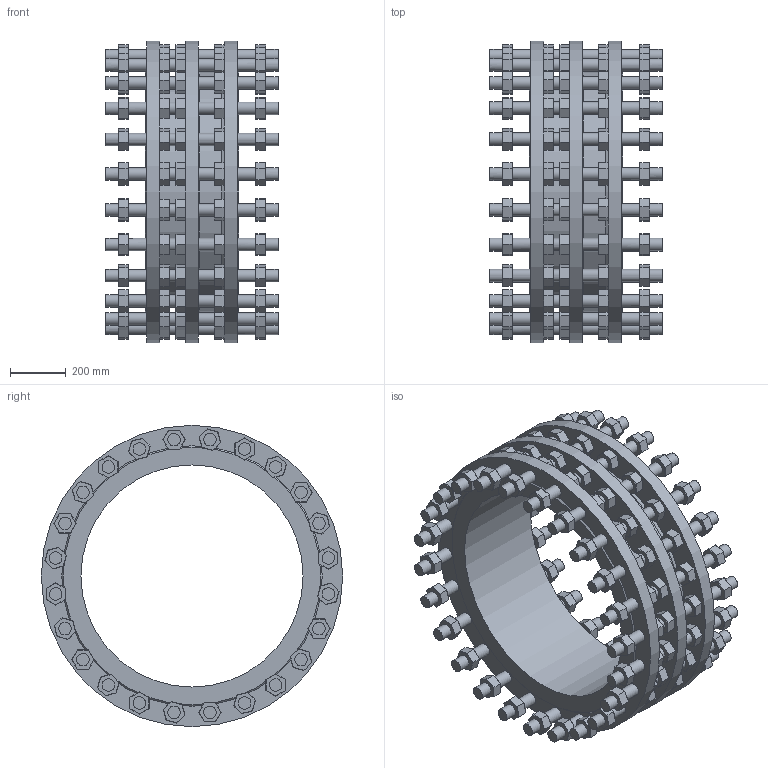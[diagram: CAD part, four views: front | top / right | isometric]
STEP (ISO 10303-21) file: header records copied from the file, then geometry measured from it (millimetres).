
FILE_DESCRIPTION (( 'STEP AP203' ), '1' );
FILE_NAME ('873080000741000.STEP', '2021-11-05T10:07:49', ( '' ), ( '' ), 'SwSTEP 2.0', 'SolidWorks 2020', '' );
FILE_SCHEMA (( 'CONFIG_CONTROL_DESIGN' ));
Products named in the file (1): 873080000741000
Bounding box: 620 x 1085 x 1085 mm (x, y, z)
Volume: 103265518.6 mm3; surface area: 7823487.5 mm2
Topology: 121 solids, 121 shells, 2683 faces, 5811 edges, 3425 vertices
Faces by surface type: plane 2457, cylinder 223, cone 3
Full cylindrical faces by diameter (mm): 43.5 x120, 45 x96, 800 x1, 835 x1, 870 x1, 886 x1, 1085 x3
Entity records: 68577 total; most frequent: CARTESIAN_POINT 11506, DIRECTION 11310, ORIENTED_EDGE 10982, EDGE_CURVE 5491, VECTOR 5040, LINE 5040, VERTEX_POINT 3331, EDGE_LOOP 3302
